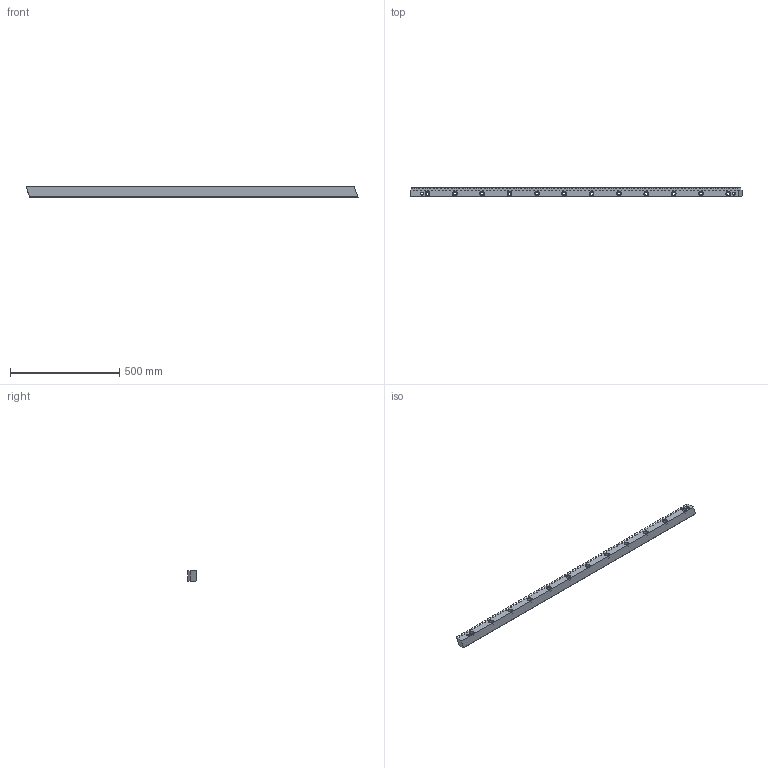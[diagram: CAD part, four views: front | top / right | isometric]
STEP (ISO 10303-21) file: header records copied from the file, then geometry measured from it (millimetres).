
FILE_DESCRIPTION (( 'STEP AP214' ), '1' );
FILE_NAME ('1HR16R050150H.STEP', '2021-12-06T11:28:47', ( '' ), ( '' ), 'SwSTEP 2.0', 'SolidWorks 2021', '' );
FILE_SCHEMA (( 'AUTOMOTIVE_DESIGN' ));
Length unit declared in the file: millimetre
Products named in the file (1): 1HR16R050150H
Bounding box: 1517.38 x 39 x 49 mm (x, y, z)
Volume: 2341186.6 mm3; surface area: 346469.1 mm2
Topology: 1 solids, 1 shells, 1023 faces, 2975 edges, 1966 vertices
Faces by surface type: plane 559, cylinder 412, cone 52
Entity records: 33219 total; most frequent: CARTESIAN_POINT 8125, ORIENTED_EDGE 5950, DIRECTION 4459, EDGE_CURVE 2975, VECTOR 2099, LINE 2099, VERTEX_POINT 1966, AXIS2_PLACEMENT_3D 1180
